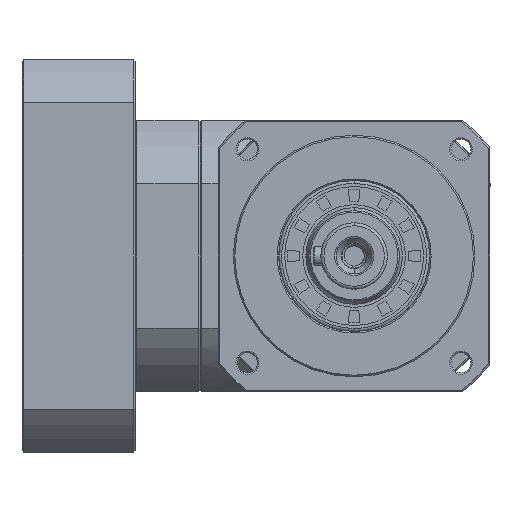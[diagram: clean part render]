
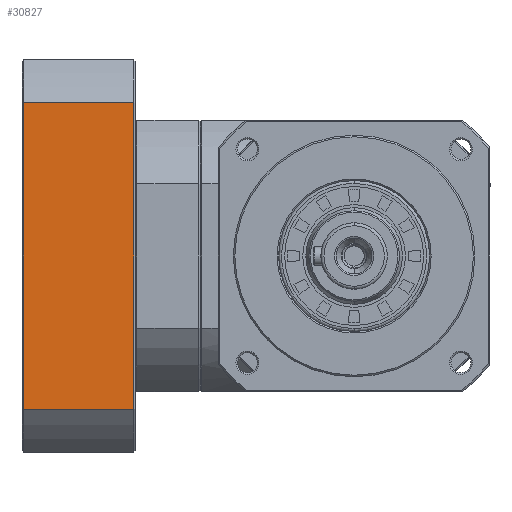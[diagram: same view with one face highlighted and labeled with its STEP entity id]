
A CAD part, left-side view. The second image highlights one B-rep face of the part: STEP entity #30827.
In plain terms, the highlighted planar face has unit normal (1, 0, 0).
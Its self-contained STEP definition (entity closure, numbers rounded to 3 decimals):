
#351 = EDGE_LOOP ( 'NONE', ( #79629, #11637, #63428, #49552 ) ) ;
#3607 = PLANE ( 'NONE',  #49575 ) ;
#11637 = ORIENTED_EDGE ( 'NONE', *, *, #40803, .F. ) ;
#13630 = VECTOR ( 'NONE', #77628, 1000. ) ;
#18920 = DIRECTION ( 'NONE',  ( 0., 0., 1. ) ) ;
#19463 = EDGE_CURVE ( 'NONE', #38380, #58586, #78613, .T. ) ;
#21308 = VECTOR ( 'NONE', #57351, 1000. ) ;
#24913 = CARTESIAN_POINT ( 'NONE',  ( 54., 91.25, -50.806 ) ) ;
#26180 = VERTEX_POINT ( 'NONE', #44947 ) ;
#30827 = ADVANCED_FACE ( 'NONE', ( #60266 ), #3607, .F. ) ;
#32227 = DIRECTION ( 'NONE',  ( 0., 1., 0. ) ) ;
#33599 = VECTOR ( 'NONE', #35297, 1000. ) ;
#34970 = LINE ( 'NONE', #50646, #21308 ) ;
#35297 = DIRECTION ( 'NONE',  ( 0., -1., 0. ) ) ;
#35616 = CARTESIAN_POINT ( 'NONE',  ( 54., 91.25, 50.806 ) ) ;
#38380 = VERTEX_POINT ( 'NONE', #75785 ) ;
#39110 = CARTESIAN_POINT ( 'NONE',  ( 54., 73., 0. ) ) ;
#40803 = EDGE_CURVE ( 'NONE', #46244, #26180, #34970, .T. ) ;
#43062 = EDGE_CURVE ( 'NONE', #38380, #26180, #49454, .T. ) ;
#44947 = CARTESIAN_POINT ( 'NONE',  ( 54., 109.5, -50.806 ) ) ;
#46244 = VERTEX_POINT ( 'NONE', #51210 ) ;
#48318 = EDGE_CURVE ( 'NONE', #46244, #58586, #89499, .T. ) ;
#49454 = LINE ( 'NONE', #24913, #82504 ) ;
#49552 = ORIENTED_EDGE ( 'NONE', *, *, #19463, .F. ) ;
#49575 = AXIS2_PLACEMENT_3D ( 'NONE', #61923, #84834, #18920 ) ;
#50646 = CARTESIAN_POINT ( 'NONE',  ( 54., 109.5, 0. ) ) ;
#51210 = CARTESIAN_POINT ( 'NONE',  ( 54., 109.5, 50.806 ) ) ;
#57351 = DIRECTION ( 'NONE',  ( 0., 0., -1. ) ) ;
#58586 = VERTEX_POINT ( 'NONE', #88227 ) ;
#60266 = FACE_OUTER_BOUND ( 'NONE', #351, .T. ) ;
#61923 = CARTESIAN_POINT ( 'NONE',  ( 54., 73., -50.806 ) ) ;
#63428 = ORIENTED_EDGE ( 'NONE', *, *, #48318, .T. ) ;
#75785 = CARTESIAN_POINT ( 'NONE',  ( 54., 73., -50.806 ) ) ;
#77628 = DIRECTION ( 'NONE',  ( 0., 0., 1. ) ) ;
#78613 = LINE ( 'NONE', #39110, #13630 ) ;
#79629 = ORIENTED_EDGE ( 'NONE', *, *, #43062, .T. ) ;
#82504 = VECTOR ( 'NONE', #32227, 1000. ) ;
#84834 = DIRECTION ( 'NONE',  ( -1., 0., 0. ) ) ;
#88227 = CARTESIAN_POINT ( 'NONE',  ( 54., 73., 50.806 ) ) ;
#89499 = LINE ( 'NONE', #35616, #33599 ) ;
